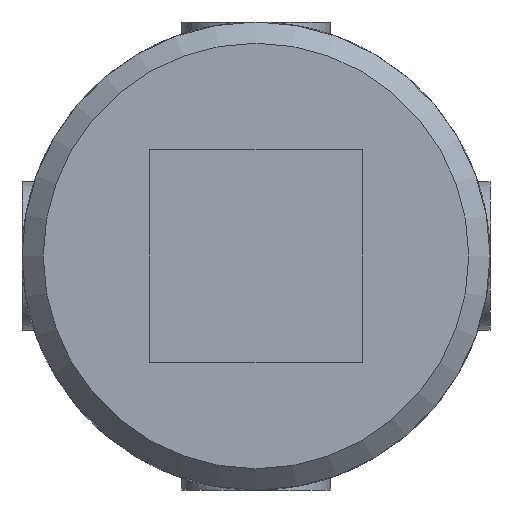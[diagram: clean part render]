
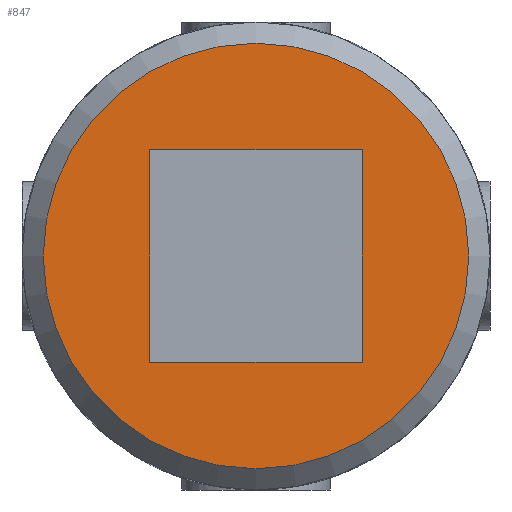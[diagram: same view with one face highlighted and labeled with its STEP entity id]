
A CAD part, front view. The second image highlights one B-rep face of the part: STEP entity #847.
In plain terms, the highlighted planar face has unit normal (0, -1, 0).
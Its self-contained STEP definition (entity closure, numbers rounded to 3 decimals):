
#94=LINE('',#1271,#134);
#98=LINE('',#1294,#138);
#104=LINE('',#1332,#144);
#107=LINE('',#1352,#147);
#134=VECTOR('',#1040,10.);
#138=VECTOR('',#1048,10.);
#144=VECTOR('',#1056,10.);
#147=VECTOR('',#1063,10.);
#174=PLANE('',#923);
#199=FACE_BOUND('',#299,.T.);
#232=FACE_OUTER_BOUND('',#298,.T.);
#298=EDGE_LOOP('',(#681));
#299=EDGE_LOOP('',(#682,#683,#684,#685));
#348=CIRCLE('',#921,10.);
#388=VERTEX_POINT('',#1268);
#389=VERTEX_POINT('',#1270);
#395=VERTEX_POINT('',#1293);
#404=VERTEX_POINT('',#1330);
#411=VERTEX_POINT('',#1407);
#475=EDGE_CURVE('',#389,#388,#94,.T.);
#482=EDGE_CURVE('',#395,#389,#98,.T.);
#492=EDGE_CURVE('',#388,#404,#104,.T.);
#498=EDGE_CURVE('',#404,#395,#107,.T.);
#509=EDGE_CURVE('',#411,#411,#348,.T.);
#681=ORIENTED_EDGE('',*,*,#509,.F.);
#682=ORIENTED_EDGE('',*,*,#475,.T.);
#683=ORIENTED_EDGE('',*,*,#492,.T.);
#684=ORIENTED_EDGE('',*,*,#498,.T.);
#685=ORIENTED_EDGE('',*,*,#482,.T.);
#847=ADVANCED_FACE('',(#232,#199),#174,.F.);
#921=AXIS2_PLACEMENT_3D('',#1408,#1092,#1093);
#923=AXIS2_PLACEMENT_3D('',#1584,#1100,#1101);
#1040=DIRECTION('',(0.,0.,-1.));
#1048=DIRECTION('',(1.,0.,0.));
#1056=DIRECTION('',(-1.,0.,0.));
#1063=DIRECTION('',(0.,0.,1.));
#1092=DIRECTION('center_axis',(0.,1.,0.));
#1093=DIRECTION('ref_axis',(1.,0.,0.));
#1100=DIRECTION('center_axis',(0.,1.,0.));
#1101=DIRECTION('ref_axis',(0.,0.,1.));
#1268=CARTESIAN_POINT('',(5.,-36.5,-5.));
#1270=CARTESIAN_POINT('',(5.,-36.5,5.));
#1271=CARTESIAN_POINT('',(5.,-36.5,2.5));
#1293=CARTESIAN_POINT('',(-5.,-36.5,5.));
#1294=CARTESIAN_POINT('',(-2.5,-36.5,5.));
#1330=CARTESIAN_POINT('',(-5.,-36.5,-5.));
#1332=CARTESIAN_POINT('',(2.5,-36.5,-5.));
#1352=CARTESIAN_POINT('',(-5.,-36.5,-2.5));
#1407=CARTESIAN_POINT('',(-10.,-36.5,0.));
#1408=CARTESIAN_POINT('Origin',(0.,-36.5,0.));
#1584=CARTESIAN_POINT('Origin',(0.,-36.5,0.));
